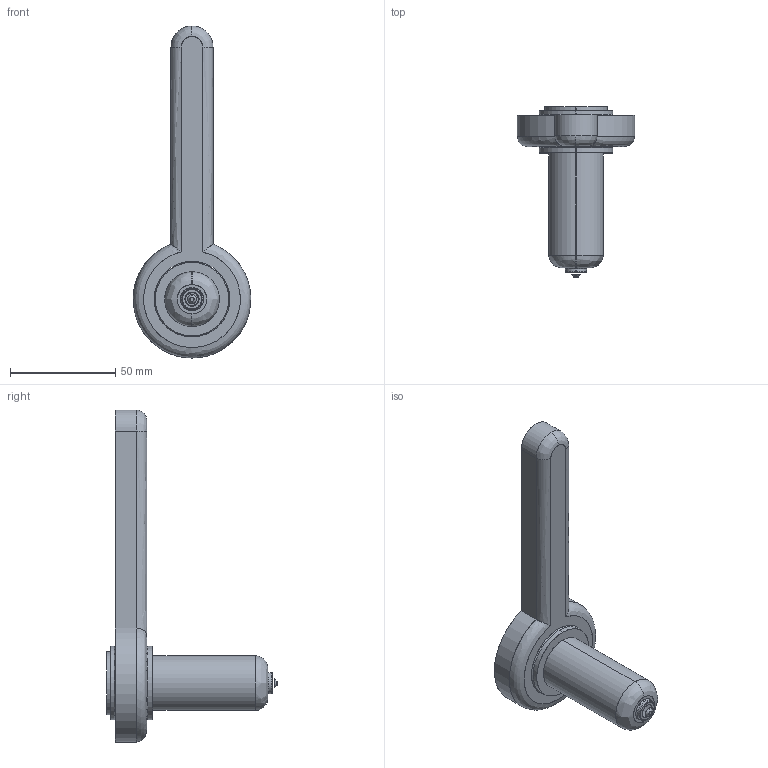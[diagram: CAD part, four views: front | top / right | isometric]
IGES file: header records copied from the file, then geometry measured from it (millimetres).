
Start section: SolidWorks IGES file using analytic representation for surfaces
Global section: file name: C:\Users\luca.EMPAD\Desktop\TEM\Sede UGEP3051-S-A C-59 L-79 Ød-2.0.IGS; native system: SolidWorks 2012; preprocessor: SolidWorks 2012; author: luca; date: 120402.151924; units: millimetre
Bounding box: 56 x 81.15 x 158 mm (x, y, z)
Surface area: 18737.2 mm2 (no closed solid volume)
Topology: 0 solids, 0 shells, 44 faces, 918 edges, 918 vertices
Faces by surface type: revolution 27, bspline 17
